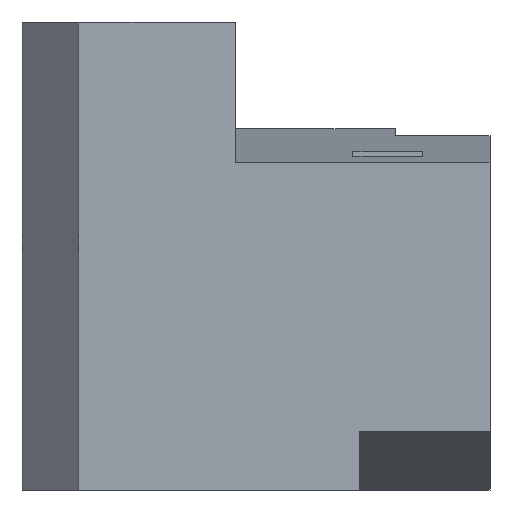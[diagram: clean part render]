
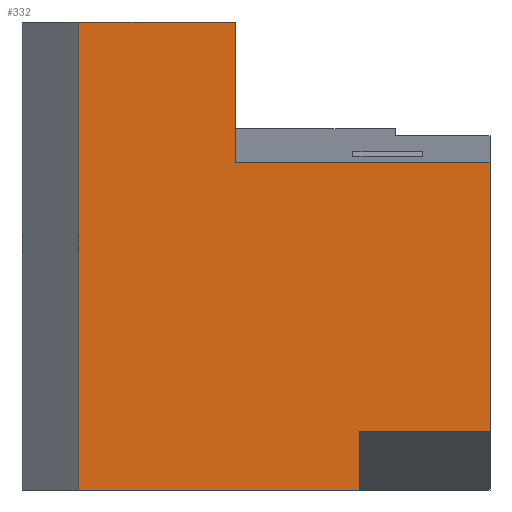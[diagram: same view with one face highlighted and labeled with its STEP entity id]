
A CAD part, left-side view. The second image highlights one B-rep face of the part: STEP entity #332.
In plain terms, the highlighted planar face has unit normal (-1, 0, 0).
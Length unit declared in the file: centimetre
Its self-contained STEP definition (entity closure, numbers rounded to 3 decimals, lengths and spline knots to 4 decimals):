
#25 = ORIENTED_EDGE ( 'NONE', *, *, #599, .F. ) ;
#39 = ORIENTED_EDGE ( 'NONE', *, *, #794, .F. ) ;
#97 = LINE ( 'NONE', #443, #135 ) ;
#135 = VECTOR ( 'NONE', #1211, 100. ) ;
#162 = VECTOR ( 'NONE', #1893, 100. ) ;
#184 = ORIENTED_EDGE ( 'NONE', *, *, #239, .T. ) ;
#194 = DIRECTION ( 'NONE',  ( 0., -1., 0. ) ) ;
#220 = EDGE_LOOP ( 'NONE', ( #1744, #184, #39, #1826, #1561, #25, #342, #583 ) ) ;
#224 = CARTESIAN_POINT ( 'NONE',  ( 0., 543.7402, 700.2487 ) ) ;
#232 = CARTESIAN_POINT ( 'NONE',  ( 0., 0., 700.2487 ) ) ;
#239 = EDGE_CURVE ( 'NONE', #504, #1125, #1831, .T. ) ;
#243 = VERTEX_POINT ( 'NONE', #1655 ) ;
#248 = VERTEX_POINT ( 'NONE', #917 ) ;
#295 = EDGE_CURVE ( 'NONE', #243, #797, #1809, .T. ) ;
#299 = CARTESIAN_POINT ( 'NONE',  ( 0., 279.0065, 125.3456 ) ) ;
#318 = CARTESIAN_POINT ( 'NONE',  ( 0., 279.0065, 0. ) ) ;
#332 = ADVANCED_FACE ( 'NONE', ( #1351 ), #877, .F. ) ;
#342 = ORIENTED_EDGE ( 'NONE', *, *, #1810, .T. ) ;
#356 = VERTEX_POINT ( 'NONE', #621 ) ;
#443 = CARTESIAN_POINT ( 'NONE',  ( 0., 0., 1000. ) ) ;
#504 = VERTEX_POINT ( 'NONE', #1714 ) ;
#540 = LINE ( 'NONE', #1904, #579 ) ;
#579 = VECTOR ( 'NONE', #1292, 100. ) ;
#583 = ORIENTED_EDGE ( 'NONE', *, *, #1670, .T. ) ;
#599 = EDGE_CURVE ( 'NONE', #248, #670, #540, .T. ) ;
#621 = CARTESIAN_POINT ( 'NONE',  ( 0., 878.7946, 0. ) ) ;
#670 = VERTEX_POINT ( 'NONE', #1277 ) ;
#758 = DIRECTION ( 'NONE',  ( 0., -1., 0. ) ) ;
#794 = EDGE_CURVE ( 'NONE', #797, #1125, #97, .T. ) ;
#797 = VERTEX_POINT ( 'NONE', #232 ) ;
#850 = CARTESIAN_POINT ( 'NONE',  ( 0., 279.0065, 0. ) ) ;
#877 = PLANE ( 'NONE',  #1387 ) ;
#917 = CARTESIAN_POINT ( 'NONE',  ( 0., 878.7946, 1000. ) ) ;
#926 = CARTESIAN_POINT ( 'NONE',  ( 0., 1000., 0. ) ) ;
#943 = LINE ( 'NONE', #926, #1886 ) ;
#956 = CARTESIAN_POINT ( 'NONE',  ( 0., 0., 125.3456 ) ) ;
#968 = DIRECTION ( 'NONE',  ( 0., 0., -1. ) ) ;
#1031 = VECTOR ( 'NONE', #758, 100. ) ;
#1048 = DIRECTION ( 'NONE',  ( 1., 0., 0. ) ) ;
#1096 = VECTOR ( 'NONE', #1208, 100. ) ;
#1120 = VECTOR ( 'NONE', #968, 100. ) ;
#1125 = VERTEX_POINT ( 'NONE', #956 ) ;
#1208 = DIRECTION ( 'NONE',  ( 0., -1., 0. ) ) ;
#1211 = DIRECTION ( 'NONE',  ( 0., 0., -1. ) ) ;
#1219 = CARTESIAN_POINT ( 'NONE',  ( 0., 543.7402, 700.2487 ) ) ;
#1269 = LINE ( 'NONE', #224, #1535 ) ;
#1277 = CARTESIAN_POINT ( 'NONE',  ( 0., 543.7402, 1000. ) ) ;
#1292 = DIRECTION ( 'NONE',  ( 0., -1., 0. ) ) ;
#1302 = DIRECTION ( 'NONE',  ( 0., 0., -1. ) ) ;
#1323 = VERTEX_POINT ( 'NONE', #318 ) ;
#1351 = FACE_OUTER_BOUND ( 'NONE', #220, .T. ) ;
#1387 = AXIS2_PLACEMENT_3D ( 'NONE', #1801, #1048, #1961 ) ;
#1434 = LINE ( 'NONE', #850, #162 ) ;
#1535 = VECTOR ( 'NONE', #1302, 100. ) ;
#1561 = ORIENTED_EDGE ( 'NONE', *, *, #1923, .F. ) ;
#1607 = CARTESIAN_POINT ( 'NONE',  ( 0., 878.7946, 1000. ) ) ;
#1618 = LINE ( 'NONE', #1607, #1120 ) ;
#1655 = CARTESIAN_POINT ( 'NONE',  ( 0., 543.7402, 700.2487 ) ) ;
#1670 = EDGE_CURVE ( 'NONE', #356, #1323, #943, .T. ) ;
#1714 = CARTESIAN_POINT ( 'NONE',  ( 0., 279.0065, 125.3456 ) ) ;
#1744 = ORIENTED_EDGE ( 'NONE', *, *, #1846, .F. ) ;
#1801 = CARTESIAN_POINT ( 'NONE',  ( 0., 1000., 1000. ) ) ;
#1809 = LINE ( 'NONE', #1219, #1031 ) ;
#1810 = EDGE_CURVE ( 'NONE', #248, #356, #1618, .T. ) ;
#1826 = ORIENTED_EDGE ( 'NONE', *, *, #295, .F. ) ;
#1831 = LINE ( 'NONE', #299, #1096 ) ;
#1846 = EDGE_CURVE ( 'NONE', #504, #1323, #1434, .T. ) ;
#1886 = VECTOR ( 'NONE', #194, 100. ) ;
#1893 = DIRECTION ( 'NONE',  ( 0., 0., -1. ) ) ;
#1904 = CARTESIAN_POINT ( 'NONE',  ( 0., 1000., 1000. ) ) ;
#1923 = EDGE_CURVE ( 'NONE', #670, #243, #1269, .T. ) ;
#1961 = DIRECTION ( 'NONE',  ( 0., 0., -1. ) ) ;
